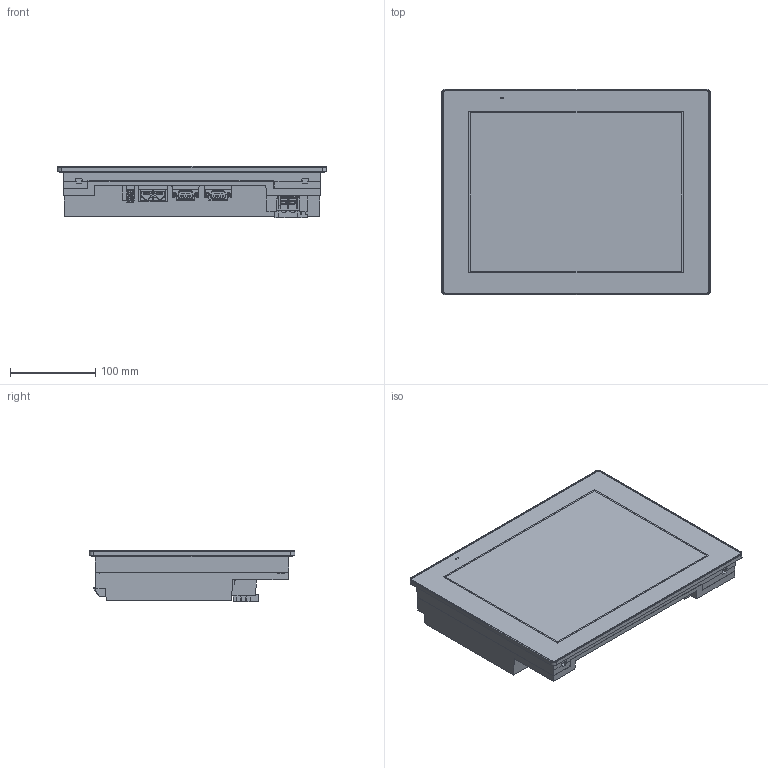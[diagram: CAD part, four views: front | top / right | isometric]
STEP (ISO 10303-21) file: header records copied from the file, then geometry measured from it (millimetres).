
FILE_DESCRIPTION (( 'STEP AP203' ), '1' );
FILE_NAME ('PFXGP6600TAA_3D-simpl.STEP', '2025-02-06T14:12:09', ( '' ), ( '' ), 'SwSTEP 2.0', 'SolidWorks 2017', '' );
FILE_SCHEMA (( 'CONFIG_CONTROL_DESIGN' ));
Length unit declared in the file: millimetre
Products named in the file (4): PFXGP6600TAA_3D-simpl_1; PFXGP6600TAA_3D-simpl; PFXGP6600TAA_3D-simpl_1_3; PFXGP6600TAA_3D-simpl_1_2
Assembly tree (3 placements, depth 2):
  PFXGP6600TAA_3D-simpl
    PFXGP6600TAA_3D-simpl_1
    PFXGP6600TAA_3D-simpl_1_2
    PFXGP6600TAA_3D-simpl_1_3
Bounding box: 315 x 241 x 59.98 mm (x, y, z)
Volume: 3177269.4 mm3; surface area: 340469.9 mm2
Topology: 3 solids, 3 shells, 2574 faces, 7294 edges, 4733 vertices
Faces by surface type: plane 1551, cylinder 680, bspline 224, cone 107, torus 12
Entity records: 98750 total; most frequent: CARTESIAN_POINT 36108, ORIENTED_EDGE 14482, DIRECTION 10566, EDGE_CURVE 7241, VERTEX_POINT 4733, VECTOR 4632, LINE 4632, AXIS2_PLACEMENT_3D 2967
